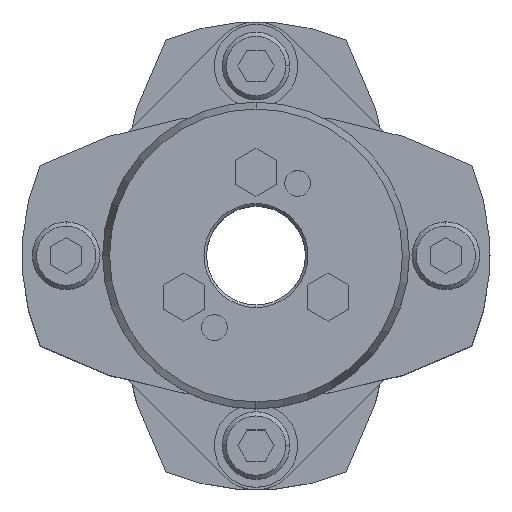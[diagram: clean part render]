
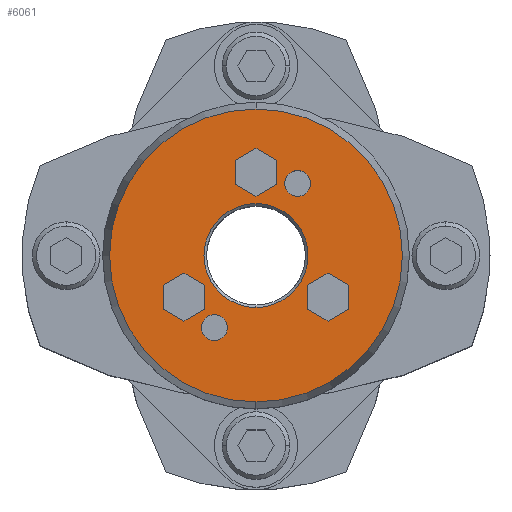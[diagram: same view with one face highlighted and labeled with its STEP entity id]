
A CAD part, top view. The second image highlights one B-rep face of the part: STEP entity #6061.
In plain terms, the highlighted planar face has unit normal (0, 0, 1).
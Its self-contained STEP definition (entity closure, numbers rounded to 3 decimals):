
#1677=CARTESIAN_POINT('',(0.,10.,52.0));
#1678=VERTEX_POINT('',#1677);
#1694=CARTESIAN_POINT('',(0.,-10.,52.0));
#1695=VERTEX_POINT('',#1694);
#1702=CARTESIAN_POINT('',(0.,0.,52.0));
#1703=DIRECTION('',(0.0,0.0,1.0));
#1704=DIRECTION('',(0.0,1.0,0.0));
#1705=AXIS2_PLACEMENT_3D('',#1702,#1703,#1704);
#1706=CIRCLE('',#1705,10.0);
#1707=EDGE_CURVE('',#1695,#1678,#1706,.T.);
#1865=CARTESIAN_POINT('',(0.,-28.16,52.0));
#1866=VERTEX_POINT('',#1865);
#1873=CARTESIAN_POINT('',(0.,28.16,52.0));
#1874=VERTEX_POINT('',#1873);
#1875=CARTESIAN_POINT('',(0.,0.,52.0));
#1876=DIRECTION('',(0.0,0.0,-1.0));
#1877=DIRECTION('',(0.0,-1.0,0.0));
#1878=AXIS2_PLACEMENT_3D('',#1875,#1876,#1877);
#1879=CIRCLE('',#1878,28.16);
#1880=EDGE_CURVE('',#1866,#1874,#1879,.T.);
#2123=CARTESIAN_POINT('',(8.,16.356,52.0));
#2124=VERTEX_POINT('',#2123);
#2140=CARTESIAN_POINT('',(8.,11.356,52.0));
#2141=VERTEX_POINT('',#2140);
#2148=CARTESIAN_POINT('',(8.,13.856,52.0));
#2149=DIRECTION('',(0.0,0.0,-1.0));
#2150=DIRECTION('',(0.0,1.0,0.0));
#2151=AXIS2_PLACEMENT_3D('',#2148,#2149,#2150);
#2152=CIRCLE('',#2151,2.5);
#2153=EDGE_CURVE('',#2124,#2141,#2152,.T.);
#2165=CARTESIAN_POINT('',(-8.,-11.356,52.0));
#2166=VERTEX_POINT('',#2165);
#2182=CARTESIAN_POINT('',(-8.,-16.356,52.0));
#2183=VERTEX_POINT('',#2182);
#2190=CARTESIAN_POINT('',(-8.,-13.856,52.0));
#2191=DIRECTION('',(0.0,0.0,-1.0));
#2192=DIRECTION('',(0.0,1.0,0.0));
#2193=AXIS2_PLACEMENT_3D('',#2190,#2191,#2192);
#2194=CIRCLE('',#2193,2.5);
#2195=EDGE_CURVE('',#2166,#2183,#2194,.T.);
#4577=CARTESIAN_POINT('',(13.856,-3.381,52.0));
#4578=VERTEX_POINT('',#4577);
#4585=CARTESIAN_POINT('',(9.856,-5.691,52.0));
#4586=VERTEX_POINT('',#4585);
#4587=CARTESIAN_POINT('',(9.856,-5.691,52.0));
#4588=DIRECTION('',(0.866,0.5,0.0));
#4589=VECTOR('',#4588,4.619);
#4590=LINE('',#4587,#4589);
#4591=EDGE_CURVE('',#4586,#4578,#4590,.T.);
#4615=CARTESIAN_POINT('',(17.856,-5.691,52.0));
#4616=VERTEX_POINT('',#4615);
#4623=CARTESIAN_POINT('',(13.856,-3.381,52.0));
#4624=DIRECTION('',(0.866,-0.5,0.0));
#4625=VECTOR('',#4624,4.619);
#4626=LINE('',#4623,#4625);
#4627=EDGE_CURVE('',#4578,#4616,#4626,.T.);
#4646=CARTESIAN_POINT('',(17.856,-10.309,52.0));
#4647=VERTEX_POINT('',#4646);
#4654=CARTESIAN_POINT('',(17.856,-5.691,52.0));
#4655=DIRECTION('',(0.0,-1.0,0.0));
#4656=VECTOR('',#4655,4.619);
#4657=LINE('',#4654,#4656);
#4658=EDGE_CURVE('',#4616,#4647,#4657,.T.);
#4677=CARTESIAN_POINT('',(13.856,-12.619,52.0));
#4678=VERTEX_POINT('',#4677);
#4685=CARTESIAN_POINT('',(17.856,-10.309,52.0));
#4686=DIRECTION('',(-0.866,-0.5,0.0));
#4687=VECTOR('',#4686,4.619);
#4688=LINE('',#4685,#4687);
#4689=EDGE_CURVE('',#4647,#4678,#4688,.T.);
#4708=CARTESIAN_POINT('',(9.856,-10.309,52.0));
#4709=VERTEX_POINT('',#4708);
#4716=CARTESIAN_POINT('',(13.856,-12.619,52.0));
#4717=DIRECTION('',(-0.866,0.5,0.0));
#4718=VECTOR('',#4717,4.619);
#4719=LINE('',#4716,#4718);
#4720=EDGE_CURVE('',#4678,#4709,#4719,.T.);
#4738=CARTESIAN_POINT('',(9.856,-10.309,52.0));
#4739=DIRECTION('',(0.0,1.0,0.0));
#4740=VECTOR('',#4739,4.619);
#4741=LINE('',#4738,#4740);
#4742=EDGE_CURVE('',#4709,#4586,#4741,.T.);
#4777=CARTESIAN_POINT('',(0.,20.619,52.0));
#4778=VERTEX_POINT('',#4777);
#4785=CARTESIAN_POINT('',(-4.,18.309,52.0));
#4786=VERTEX_POINT('',#4785);
#4787=CARTESIAN_POINT('',(-4.,18.309,52.0));
#4788=DIRECTION('',(0.866,0.5,0.0));
#4789=VECTOR('',#4788,4.619);
#4790=LINE('',#4787,#4789);
#4791=EDGE_CURVE('',#4786,#4778,#4790,.T.);
#4815=CARTESIAN_POINT('',(4.,18.309,52.0));
#4816=VERTEX_POINT('',#4815);
#4823=CARTESIAN_POINT('',(0.,20.619,52.0));
#4824=DIRECTION('',(0.866,-0.5,0.0));
#4825=VECTOR('',#4824,4.619);
#4826=LINE('',#4823,#4825);
#4827=EDGE_CURVE('',#4778,#4816,#4826,.T.);
#4846=CARTESIAN_POINT('',(4.,13.691,52.0));
#4847=VERTEX_POINT('',#4846);
#4854=CARTESIAN_POINT('',(4.,18.309,52.0));
#4855=DIRECTION('',(0.0,-1.0,0.0));
#4856=VECTOR('',#4855,4.619);
#4857=LINE('',#4854,#4856);
#4858=EDGE_CURVE('',#4816,#4847,#4857,.T.);
#4877=CARTESIAN_POINT('',(0.,11.381,52.0));
#4878=VERTEX_POINT('',#4877);
#4885=CARTESIAN_POINT('',(4.,13.691,52.0));
#4886=DIRECTION('',(-0.866,-0.5,0.0));
#4887=VECTOR('',#4886,4.619);
#4888=LINE('',#4885,#4887);
#4889=EDGE_CURVE('',#4847,#4878,#4888,.T.);
#4908=CARTESIAN_POINT('',(-4.,13.691,52.0));
#4909=VERTEX_POINT('',#4908);
#4916=CARTESIAN_POINT('',(0.,11.381,52.0));
#4917=DIRECTION('',(-0.866,0.5,0.0));
#4918=VECTOR('',#4917,4.619);
#4919=LINE('',#4916,#4918);
#4920=EDGE_CURVE('',#4878,#4909,#4919,.T.);
#4938=CARTESIAN_POINT('',(-4.,13.691,52.0));
#4939=DIRECTION('',(0.0,1.0,0.0));
#4940=VECTOR('',#4939,4.619);
#4941=LINE('',#4938,#4940);
#4942=EDGE_CURVE('',#4909,#4786,#4941,.T.);
#4977=CARTESIAN_POINT('',(-13.856,-3.381,52.0));
#4978=VERTEX_POINT('',#4977);
#4985=CARTESIAN_POINT('',(-17.856,-5.691,52.0));
#4986=VERTEX_POINT('',#4985);
#4987=CARTESIAN_POINT('',(-17.856,-5.691,52.0));
#4988=DIRECTION('',(0.866,0.5,0.0));
#4989=VECTOR('',#4988,4.619);
#4990=LINE('',#4987,#4989);
#4991=EDGE_CURVE('',#4986,#4978,#4990,.T.);
#5015=CARTESIAN_POINT('',(-9.856,-5.691,52.0));
#5016=VERTEX_POINT('',#5015);
#5023=CARTESIAN_POINT('',(-13.856,-3.381,52.0));
#5024=DIRECTION('',(0.866,-0.5,0.0));
#5025=VECTOR('',#5024,4.619);
#5026=LINE('',#5023,#5025);
#5027=EDGE_CURVE('',#4978,#5016,#5026,.T.);
#5046=CARTESIAN_POINT('',(-9.856,-10.309,52.0));
#5047=VERTEX_POINT('',#5046);
#5054=CARTESIAN_POINT('',(-9.856,-5.691,52.0));
#5055=DIRECTION('',(0.0,-1.0,0.0));
#5056=VECTOR('',#5055,4.619);
#5057=LINE('',#5054,#5056);
#5058=EDGE_CURVE('',#5016,#5047,#5057,.T.);
#5077=CARTESIAN_POINT('',(-13.856,-12.619,52.0));
#5078=VERTEX_POINT('',#5077);
#5085=CARTESIAN_POINT('',(-9.856,-10.309,52.0));
#5086=DIRECTION('',(-0.866,-0.5,0.0));
#5087=VECTOR('',#5086,4.619);
#5088=LINE('',#5085,#5087);
#5089=EDGE_CURVE('',#5047,#5078,#5088,.T.);
#5108=CARTESIAN_POINT('',(-17.856,-10.309,52.0));
#5109=VERTEX_POINT('',#5108);
#5116=CARTESIAN_POINT('',(-13.856,-12.619,52.0));
#5117=DIRECTION('',(-0.866,0.5,0.0));
#5118=VECTOR('',#5117,4.619);
#5119=LINE('',#5116,#5118);
#5120=EDGE_CURVE('',#5078,#5109,#5119,.T.);
#5138=CARTESIAN_POINT('',(-17.856,-10.309,52.0));
#5139=DIRECTION('',(0.0,1.0,0.0));
#5140=VECTOR('',#5139,4.619);
#5141=LINE('',#5138,#5140);
#5142=EDGE_CURVE('',#5109,#4986,#5141,.T.);
#5168=CARTESIAN_POINT('',(-8.,-13.856,52.0));
#5169=DIRECTION('',(0.0,0.0,-1.0));
#5170=DIRECTION('',(0.0,1.0,0.0));
#5171=AXIS2_PLACEMENT_3D('',#5168,#5169,#5170);
#5172=CIRCLE('',#5171,2.5);
#5173=EDGE_CURVE('',#2183,#2166,#5172,.T.);
#5202=CARTESIAN_POINT('',(8.,13.856,52.0));
#5203=DIRECTION('',(0.0,0.0,-1.0));
#5204=DIRECTION('',(0.0,1.0,0.0));
#5205=AXIS2_PLACEMENT_3D('',#5202,#5203,#5204);
#5206=CIRCLE('',#5205,2.5);
#5207=EDGE_CURVE('',#2141,#2124,#5206,.T.);
#6000=CARTESIAN_POINT('',(0.,0.,52.0));
#6001=DIRECTION('',(0.0,0.0,-1.0));
#6002=DIRECTION('',(0.0,-1.0,0.0));
#6003=AXIS2_PLACEMENT_3D('',#6000,#6001,#6002);
#6004=CIRCLE('',#6003,28.16);
#6005=EDGE_CURVE('',#1874,#1866,#6004,.T.);
#6010=CARTESIAN_POINT('',(0.,2.682,52.0));
#6011=DIRECTION('',(0.0,0.0,1.0));
#6012=DIRECTION('',(0.0,1.0,0.0));
#6013=AXIS2_PLACEMENT_3D('',#6010,#6011,#6012);
#6014=PLANE('',#6013);
#6015=ORIENTED_EDGE('',*,*,#6005,.F.);
#6016=ORIENTED_EDGE('',*,*,#1880,.F.);
#6017=EDGE_LOOP('',(#6015,#6016));
#6018=FACE_OUTER_BOUND('',#6017,.T.);
#6019=ORIENTED_EDGE('',*,*,#4591,.T.);
#6020=ORIENTED_EDGE('',*,*,#4627,.T.);
#6021=ORIENTED_EDGE('',*,*,#4658,.T.);
#6022=ORIENTED_EDGE('',*,*,#4689,.T.);
#6023=ORIENTED_EDGE('',*,*,#4720,.T.);
#6024=ORIENTED_EDGE('',*,*,#4742,.T.);
#6025=EDGE_LOOP('',(#6019,#6020,#6021,#6022,#6023,#6024));
#6026=FACE_BOUND('',#6025,.T.);
#6027=ORIENTED_EDGE('',*,*,#4791,.T.);
#6028=ORIENTED_EDGE('',*,*,#4827,.T.);
#6029=ORIENTED_EDGE('',*,*,#4858,.T.);
#6030=ORIENTED_EDGE('',*,*,#4889,.T.);
#6031=ORIENTED_EDGE('',*,*,#4920,.T.);
#6032=ORIENTED_EDGE('',*,*,#4942,.T.);
#6033=EDGE_LOOP('',(#6027,#6028,#6029,#6030,#6031,#6032));
#6034=FACE_BOUND('',#6033,.T.);
#6035=ORIENTED_EDGE('',*,*,#4991,.T.);
#6036=ORIENTED_EDGE('',*,*,#5027,.T.);
#6037=ORIENTED_EDGE('',*,*,#5058,.T.);
#6038=ORIENTED_EDGE('',*,*,#5089,.T.);
#6039=ORIENTED_EDGE('',*,*,#5120,.T.);
#6040=ORIENTED_EDGE('',*,*,#5142,.T.);
#6041=EDGE_LOOP('',(#6035,#6036,#6037,#6038,#6039,#6040));
#6042=FACE_BOUND('',#6041,.T.);
#6043=ORIENTED_EDGE('',*,*,#2195,.T.);
#6044=ORIENTED_EDGE('',*,*,#5173,.T.);
#6045=EDGE_LOOP('',(#6043,#6044));
#6046=FACE_BOUND('',#6045,.T.);
#6047=ORIENTED_EDGE('',*,*,#2153,.T.);
#6048=ORIENTED_EDGE('',*,*,#5207,.T.);
#6049=EDGE_LOOP('',(#6047,#6048));
#6050=FACE_BOUND('',#6049,.T.);
#6051=ORIENTED_EDGE('',*,*,#1707,.F.);
#6052=CARTESIAN_POINT('',(0.,0.,52.0));
#6053=DIRECTION('',(0.0,0.0,1.0));
#6054=DIRECTION('',(0.0,1.0,0.0));
#6055=AXIS2_PLACEMENT_3D('',#6052,#6053,#6054);
#6056=CIRCLE('',#6055,10.0);
#6057=EDGE_CURVE('',#1678,#1695,#6056,.T.);
#6058=ORIENTED_EDGE('',*,*,#6057,.F.);
#6059=EDGE_LOOP('',(#6051,#6058));
#6060=FACE_BOUND('',#6059,.T.);
#6061=ADVANCED_FACE('',(#6018,#6026,#6034,#6042,#6046,#6050,#6060),#6014,.T.);
